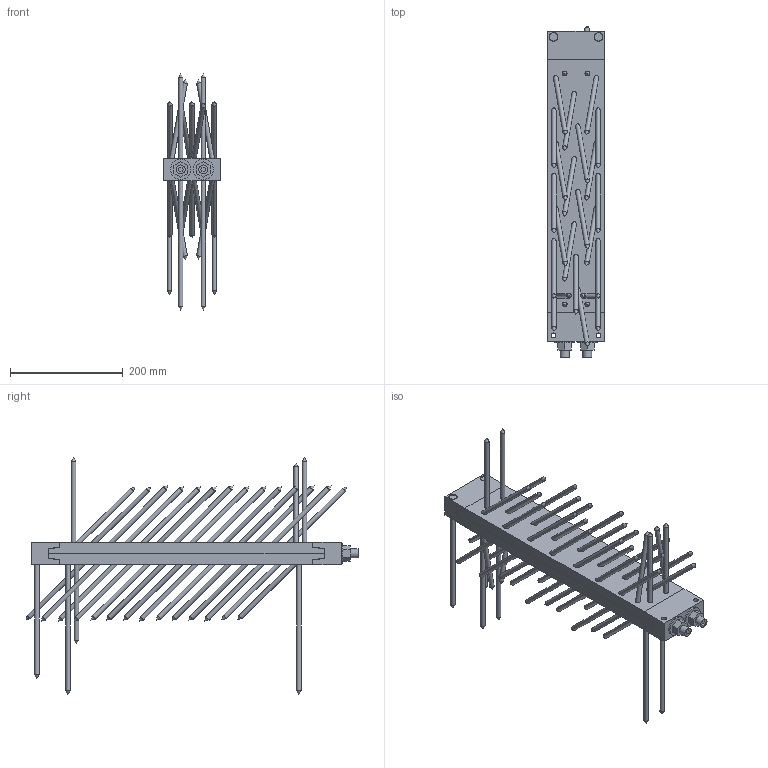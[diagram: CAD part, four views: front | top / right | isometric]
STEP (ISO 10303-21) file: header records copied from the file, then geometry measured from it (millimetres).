
FILE_DESCRIPTION(/* description */ ('Unknown'),/* implementation_level */ '2;1');
FILE_NAME(/* name */ 'MEGANT_550x100x40_Verdeckt',/* time_stamp */ '2020-05-06T08:20:10+02:00',/* author */ ('Unknown'),/* organization */ ('Unknown'),/* preprocessor_version */ 'ST-DEVELOPER v16.7',/* originating_system */ 'DEX',/* authorisation */ $);
FILE_SCHEMA (('AUTOMOTIVE_DESIGN {1 0 10303 214 3 1 1}'));
Length unit declared in the file: millimetre
Products named in the file (13): MEGANT_550x100x40_Verdeckt; Verbinderplatte_490x100x20_NT; Verbinderplatte_490x100x20; SK_Schraube_8x240; SK_Schraube_8x160; Verbinderplatte_490x100x20_HT; Spannbacke_oben_100x50x40; Spannbacke_unten_100x50x40_NT; Spannbacke_unten_100x50x40; Gewindestange_M16_L580; Beilagscheibe_M16; Mutter_M16
Assembly tree (68 placements, depth 3):
  MEGANT_550x100x40_Verdeckt
    Verbinderplatte_490x100x20_NT
      Verbinderplatte_490x100x20
      SK_Schraube_8x240  x4
      SK_Schraube_8x160  x23
    Verbinderplatte_490x100x20_HT
      Verbinderplatte_490x100x20
      SK_Schraube_8x160  x27
    Spannbacke_oben_100x50x40
    Spannbacke_unten_100x50x40_NT
      Spannbacke_unten_100x50x40
      SK_Schraube_8x240  x2
    Gewindestange_M16_L580  x2
      Gewindestange_M16_L580
      Beilagscheibe_M16
      Mutter_M16
Bounding box: 100 x 589.49 x 420 mm (x, y, z)
Volume: 2456848.7 mm3; surface area: 677812.8 mm2
Topology: 66 solids, 66 shells, 652 faces, 1522 edges, 956 vertices
Faces by surface type: cylinder 248, plane 234, cone 170
Full cylindrical faces by diameter (mm): 8 x56, 8.5 x58, 13.835 x2, 14 x2, 15 x114, 16 x2, 17 x4, 36 x2
Entity records: 6744 total; most frequent: DIRECTION 1140, CARTESIAN_POINT 1018, ORIENTED_EDGE 820, AXIS2_PLACEMENT_3D 446, EDGE_CURVE 410, FACE_BOUND 402, EDGE_LOOP 400, VERTEX_POINT 324
